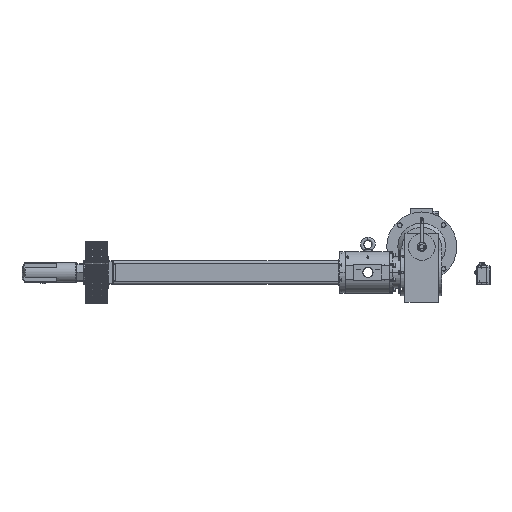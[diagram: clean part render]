
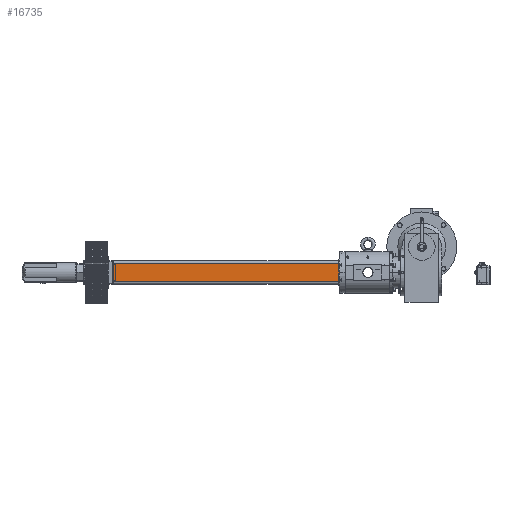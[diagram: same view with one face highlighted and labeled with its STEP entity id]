
A CAD part, top view. The second image highlights one B-rep face of the part: STEP entity #16735.
In plain terms, the highlighted planar face has unit normal (0, 0, 1).
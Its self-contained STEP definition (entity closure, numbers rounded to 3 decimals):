
#10745 = CARTESIAN_POINT ( 'NONE',  ( 980., 40., 50. ) ) ;
#10750 = PLANE ( 'NONE',  #50744 ) ;
#10753 = DIRECTION ( 'NONE',  ( 0., 0., -1. ) ) ;
#10754 = DIRECTION ( 'NONE',  ( -1., 0., 0. ) ) ;
#12928 = CARTESIAN_POINT ( 'NONE',  ( 980., -40., 50. ) ) ;
#12942 = CARTESIAN_POINT ( 'NONE',  ( 980., 40., 50. ) ) ;
#12952 = CARTESIAN_POINT ( 'NONE',  ( 2., -40., 50. ) ) ;
#12970 = CARTESIAN_POINT ( 'NONE',  ( 2., 40., 50. ) ) ;
#15736 = LINE ( 'NONE', #55483, #15738 ) ;
#15738 = VECTOR ( 'NONE', #55484, 1000. ) ;
#15784 = LINE ( 'NONE', #55552, #15790 ) ;
#15790 = VECTOR ( 'NONE', #55554, 1000. ) ;
#15825 = LINE ( 'NONE', #55583, #15836 ) ;
#15829 = LINE ( 'NONE', #55580, #15832 ) ;
#15832 = VECTOR ( 'NONE', #55577, 1000. ) ;
#15836 = VECTOR ( 'NONE', #55588, 1000. ) ;
#16735 = ADVANCED_FACE ( 'NONE', ( #56242 ), #10750, .F. ) ;
#21057 = ORIENTED_EDGE ( 'NONE', *, *, #53610, .T. ) ;
#21058 = ORIENTED_EDGE ( 'NONE', *, *, #53611, .T. ) ;
#21059 = ORIENTED_EDGE ( 'NONE', *, *, #53596, .F. ) ;
#21060 = ORIENTED_EDGE ( 'NONE', *, *, #53571, .F. ) ;
#22421 = VERTEX_POINT ( 'NONE', #12928 ) ;
#22435 = VERTEX_POINT ( 'NONE', #12942 ) ;
#22445 = VERTEX_POINT ( 'NONE', #12952 ) ;
#22463 = VERTEX_POINT ( 'NONE', #12970 ) ;
#50744 = AXIS2_PLACEMENT_3D ( 'NONE', #10745, #10753, #10754 ) ;
#53571 = EDGE_CURVE ( 'NONE', #22435, #22421, #15736, .T. ) ;
#53596 = EDGE_CURVE ( 'NONE', #22421, #22445, #15784, .T. ) ;
#53610 = EDGE_CURVE ( 'NONE', #22435, #22463, #15829, .T. ) ;
#53611 = EDGE_CURVE ( 'NONE', #22463, #22445, #15825, .T. ) ;
#55483 = CARTESIAN_POINT ( 'NONE',  ( 980., 40., 50. ) ) ;
#55484 = DIRECTION ( 'NONE',  ( 0., -1., 0. ) ) ;
#55552 = CARTESIAN_POINT ( 'NONE',  ( 980., -40., 50. ) ) ;
#55554 = DIRECTION ( 'NONE',  ( -1., 0., 0. ) ) ;
#55577 = DIRECTION ( 'NONE',  ( -1., 0., 0. ) ) ;
#55580 = CARTESIAN_POINT ( 'NONE',  ( 980., 40., 50. ) ) ;
#55583 = CARTESIAN_POINT ( 'NONE',  ( 2., 40., 50. ) ) ;
#55588 = DIRECTION ( 'NONE',  ( 0., -1., 0. ) ) ;
#56242 = FACE_OUTER_BOUND ( 'NONE', #59240, .T. ) ;
#59240 = EDGE_LOOP ( 'NONE', ( #21057, #21058, #21059, #21060 ) ) ;
